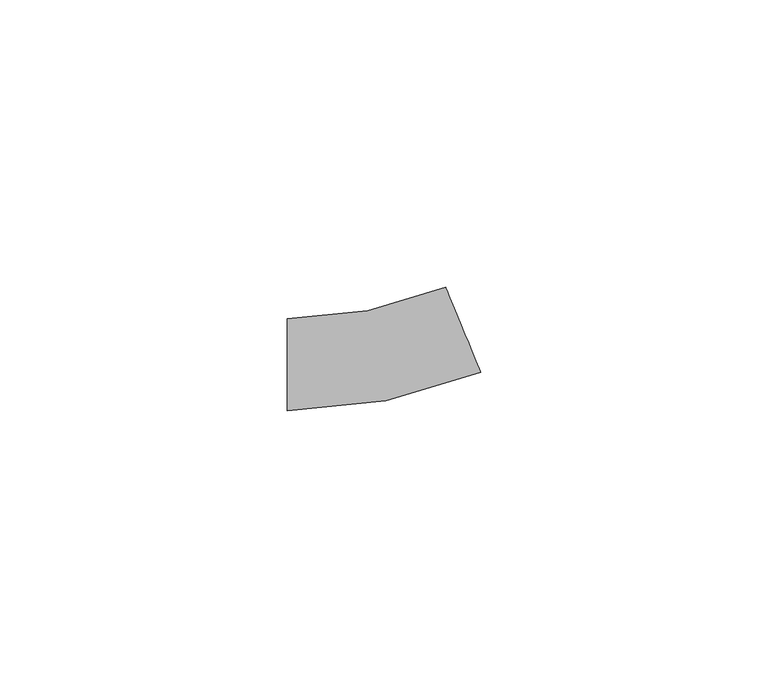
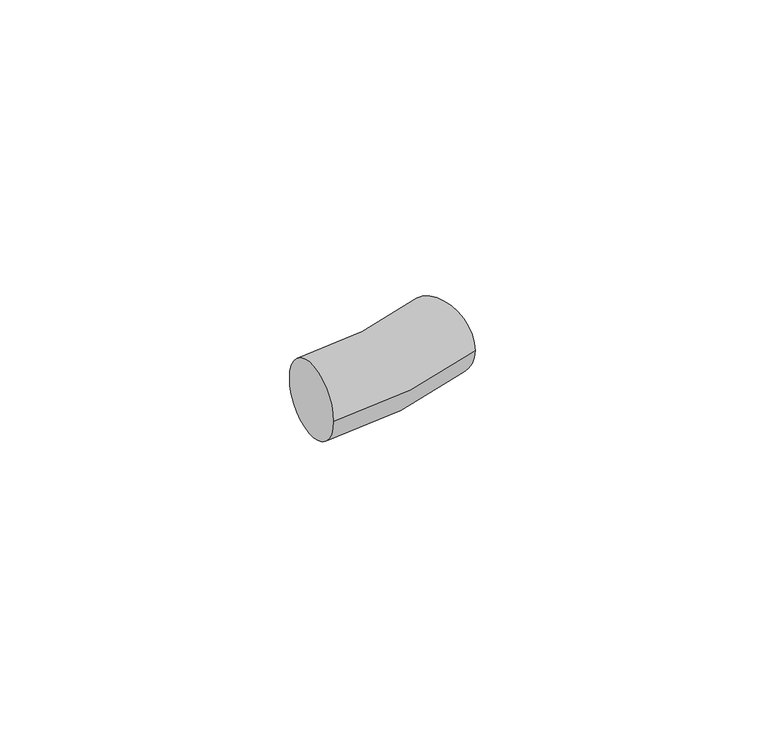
"""IFC4 building model written with IfcOpenShell, lengths in millimetres: pipe fitting geometry, Astra - Curva (Mola Curvadora) : Astra - Curva (Mola Curvadora)."""

from ifc_helpers import new_model, si_unit, point, frame, origin, place, context, project, spatial, circle_curve, ellipse_curve, trimmed, source, transform, mapped, element, save
from ifc_brep_helpers import plane_surface, revolved_surface, advanced_brep


def pipe_fitting_515ef42b(model_context):
    return source(origin(), model_context, "Body", "AdvancedBrep", [
        advanced_brep(
        [(-15.9129894, -8.0, 0.0), (-15.9129894, 8.0, 0.0), (17.7631527, -1.3013989, 0.0), (11.6402177, 13.4806737, 0.0)],
        [
            (0, 1, circle_curve(frame((-15.9129894, 0.0, 0.0), z_axis=(-1.0, 0.0, 0.0), x_axis=(0.0, 1.0, 0.0)), 8.0)),
            (1, 0, circle_curve(frame((-15.9129894, 0.0, 0.0), z_axis=(-1.0, 0.0, 0.0), x_axis=(0.0, 1.0, 0.0)), 8.0)),
            (2, 3, circle_curve(frame((14.7016852, 6.0896374, 0.0), z_axis=(0.9238795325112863, 0.38268343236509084, 0.0), x_axis=(-0.38268343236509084, 0.9238795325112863, 0.0)), 8.0)),
            (3, 2, circle_curve(frame((14.7016852, 6.0896374, 0.0), z_axis=(0.9238795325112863, 0.38268343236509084, 0.0), x_axis=(-0.38268343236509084, 0.9238795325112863, 0.0)), 8.0)),
            (3, 1, circle_curve(frame((-15.9129894, 80.0, 0.0), z_axis=(0.0, 0.0, -1.0), x_axis=(0.0, -1.0, 0.0)), 72.0)),
            (0, 2, circle_curve(frame((-15.9129894, 80.0, 0.0), z_axis=(0.0, 0.0, 1.0), x_axis=(0.0, -1.0, 0.0)), 88.0)),
        ],
        [
            plane_surface(frame((-15.9129894, 0.0, 0.0), z_axis=(-1.0, 0.0, 0.0), x_axis=(0.0, 0.0, 1.0))),
            plane_surface(frame((14.7016852, 6.0896374, 0.0), z_axis=(0.9238795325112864, 0.38268343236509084, 0.0), x_axis=(0.0, 0.0, 1.0))),
            revolved_surface(trimmed(ellipse_curve(frame((-15.9129894, 0.0, 0.0), z_axis=(-1.0, 0.0, 0.0), x_axis=(0.0, 1.0, 0.0)), 8.0, 8.0), [point((-15.9129894, -8.0, 0.0))], [point((-15.9129894, 8.0, 0.0))], True, "CARTESIAN"), (-15.9129894, 80.0, 0.0), (0.0, 0.0, 1.0)),
            revolved_surface(trimmed(ellipse_curve(frame((-15.9129894, 0.0, 0.0), z_axis=(-1.0, 0.0, 0.0), x_axis=(0.0, 1.0, 0.0)), 8.0, 8.0), [point((-15.9129894, 8.0, 0.0))], [point((-15.9129894, -8.0, 0.0))], True, "CARTESIAN"), (-15.9129894, 80.0, 0.0), (0.0, 0.0, 1.0)),
        ],
        [
            (0, [[1, 2]]),
            (1, [[3, 4]]),
            (2, [[5, -1, 6, -4]]),
            (3, [[-6, -2, -5, -3]]),
        ],
    ),
    ])


if __name__ == "__main__":
    model = new_model("IFC4")
    model_context = context("Model", 3, world=origin())
    ifc_project = project(units=[si_unit("LENGTHUNIT", "METRE", prefix="MILLI")], contexts=[model_context])
    site = spatial("IfcSite", under=ifc_project)
    building = spatial("IfcBuilding", under=site)
    placement = place(None, origin())
    pipe_fitting_shape = pipe_fitting_515ef42b(model_context)
    element("IfcPipeFitting", 1, ObjectType="Astra - Curva (Mola Curvadora) : Astra - Curva (Mola Curvadora)", at=placement, inside=building, context=model_context, shape_type="MappedRepresentation", body=[
        mapped(pipe_fitting_shape, transform((0.0, 0.0, 0.0), x_axis=(1.0, 0.0, 0.0), y_axis=(0.0, 1.0, 0.0), z_axis=(0.0, 0.0, 1.0))),
    ])
    save(model, "model.ifc")
